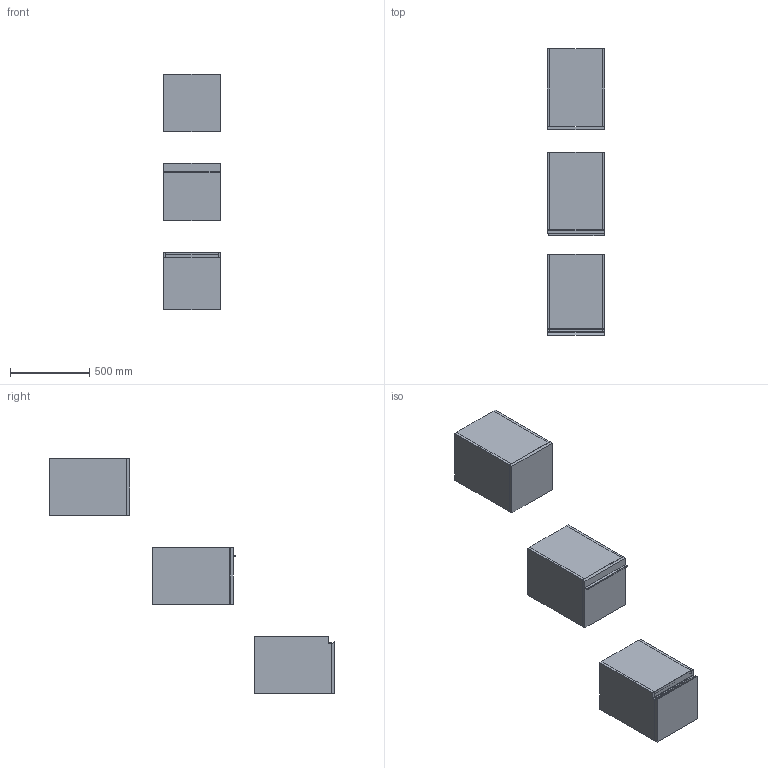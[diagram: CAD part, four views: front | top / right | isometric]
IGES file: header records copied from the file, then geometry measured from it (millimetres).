
Start section: Data from Parasolid IGES Translator 19.0.9, Copyright(c) 2006 Siemens PL M Software. All Rights Reserved.
Global section: file name: noorth-SI-H 36 D 51 W 36_8366.igs; native system: By Siemens PLM Incorporated; preprocessor: XPlus GENERIC/IGES 19.0.9; author: Noname; organization: Noname; date: 20200601.095055; units: metre
Bounding box: 360.01 x 1799.15 x 1480 mm (x, y, z)
Volume: 40091637.7 mm3; surface area: 5866923 mm2
Topology: 20 solids, 20 shells, 178 faces, 382 edges, 234 vertices
Faces by surface type: plane 134, extrusion 16, bspline 16, cylinder 12
